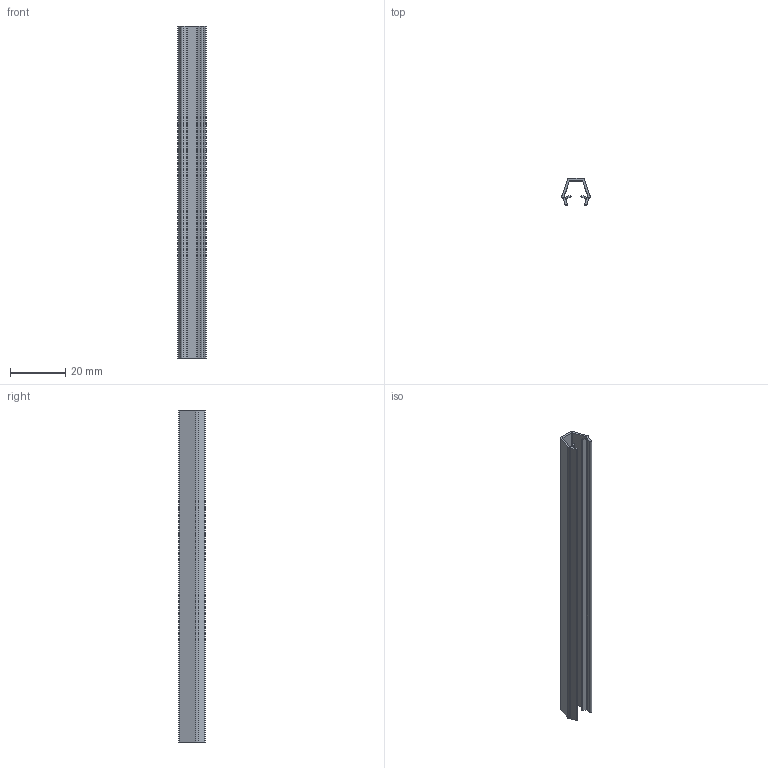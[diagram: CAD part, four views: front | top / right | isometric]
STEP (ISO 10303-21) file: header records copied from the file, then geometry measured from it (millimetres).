
FILE_DESCRIPTION(/* description */ (''),/* implementation_level */ '2;1');
FILE_NAME(/* name */ '\\AM-PUBLIC\Share\02.新型錄-2021\AM6系列\6系列-3D\06.6系列-AMF-飾條配件\AMF-06HUA.stp',/* time_stamp */ '2021-08-23T14:09:37+08:00',/* author */ ('user'),/* organization */ (''),/* preprocessor_version */ 'ST-DEVELOPER v18',/* originating_system */ 'Autodesk Inventor 2020',/* authorisation */ '');
FILE_SCHEMA (('AUTOMOTIVE_DESIGN { 1 0 10303 214 3 1 1 }'));
Length unit declared in the file: millimetre
Products named in the file (1): 零件71
Bounding box: 10.2 x 9.7 x 120 mm (x, y, z)
Volume: 2623.6 mm3; surface area: 7088.2 mm2
Topology: 1 solids, 1 shells, 32 faces, 90 edges, 60 vertices
Faces by surface type: cylinder 16, plane 16
Entity records: 1087 total; most frequent: DIRECTION 188, CARTESIAN_POINT 183, ORIENTED_EDGE 180, EDGE_CURVE 90, AXIS2_PLACEMENT_3D 65, VERTEX_POINT 60, LINE 58, VECTOR 58
